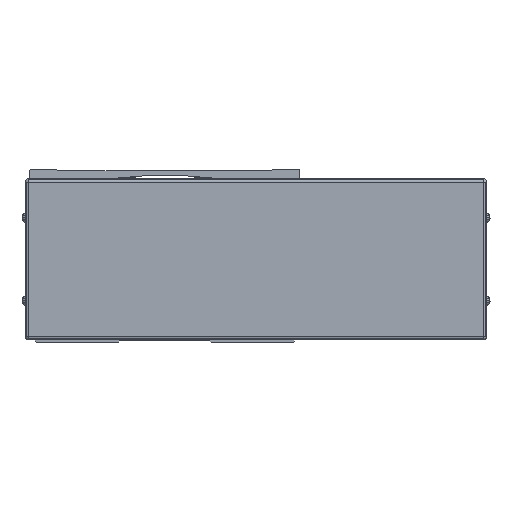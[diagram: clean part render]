
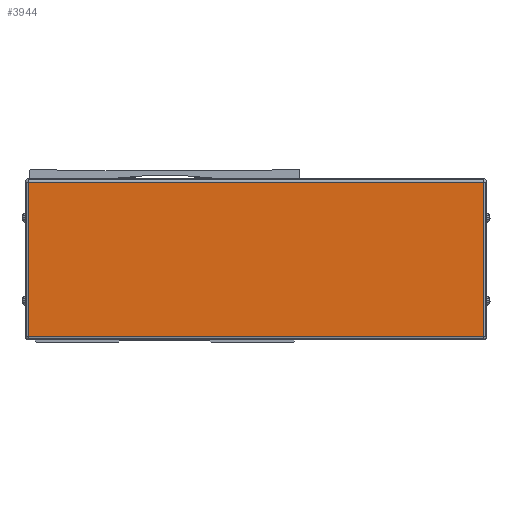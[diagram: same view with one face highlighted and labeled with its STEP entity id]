
A CAD part, front view. The second image highlights one B-rep face of the part: STEP entity #3944.
In plain terms, the highlighted planar face has unit normal (0, -1, 0).
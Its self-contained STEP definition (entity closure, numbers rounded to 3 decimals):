
#3944=ADVANCED_FACE('',(#9701),#9702,.T.);
#9701=FACE_OUTER_BOUND('',#18326,.T.);
#9702=PLANE('',#18327);
#18326=EDGE_LOOP('',(#30810,#30811,#30812,#30813));
#18327=AXIS2_PLACEMENT_3D('',#30814,#30815,#30816);
#30810=ORIENTED_EDGE('',*,*,#51899,.F.);
#30811=ORIENTED_EDGE('',*,*,#51900,.F.);
#30812=ORIENTED_EDGE('',*,*,#51901,.F.);
#30813=ORIENTED_EDGE('',*,*,#51902,.F.);
#30814=CARTESIAN_POINT('',(-545.,77.222,-2.));
#30815=DIRECTION('',(0.,-1.0,0.));
#30816=DIRECTION('',(1.0,0.,0.));
#51899=EDGE_CURVE('',#63074,#63075,#63076,.T.);
#51900=EDGE_CURVE('',#63077,#63074,#63078,.T.);
#51901=EDGE_CURVE('',#63079,#63077,#63080,.T.);
#51902=EDGE_CURVE('',#63075,#63079,#63081,.T.);
#63074=VERTEX_POINT('',#78715);
#63075=VERTEX_POINT('',#78716);
#63076=LINE('',#78717,#78718);
#63077=VERTEX_POINT('',#78719);
#63078=LINE('',#78720,#78721);
#63079=VERTEX_POINT('',#78722);
#63080=LINE('',#78723,#78724);
#63081=LINE('',#78725,#78726);
#78715=CARTESIAN_POINT('',(-682.1,77.222,44.5));
#78716=CARTESIAN_POINT('',(-407.9,77.222,44.5));
#78717=CARTESIAN_POINT('',(-545.,77.222,44.5));
#78718=VECTOR('',#94677,10.0);
#78719=CARTESIAN_POINT('',(-682.1,77.222,-48.5));
#78720=CARTESIAN_POINT('',(-682.1,77.222,-2.));
#78721=VECTOR('',#94678,10.0);
#78722=CARTESIAN_POINT('',(-407.9,77.222,-48.5));
#78723=CARTESIAN_POINT('',(-545.,77.222,-48.5));
#78724=VECTOR('',#94679,10.0);
#78725=CARTESIAN_POINT('',(-407.9,77.222,-2.));
#78726=VECTOR('',#94680,10.0);
#94677=DIRECTION('',(1.0,0.,0.));
#94678=DIRECTION('',(0.,0.,1.0));
#94679=DIRECTION('',(-1.0,0.,0.));
#94680=DIRECTION('',(0.,0.,-1.0));
